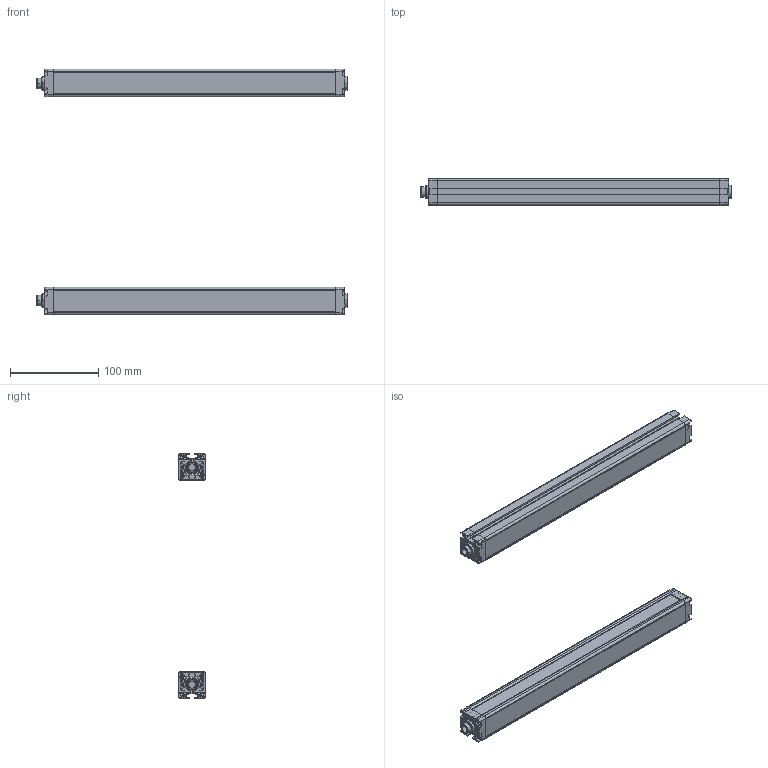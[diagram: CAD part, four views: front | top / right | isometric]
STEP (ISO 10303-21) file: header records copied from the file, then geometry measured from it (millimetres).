
FILE_DESCRIPTION((''),'2;1');
FILE_NAME('ASM0001_ASM','2019-02-27T',('Administrator'),(''),'PRO/ENGINEER BY PARAMETRIC TECHNOLOGY CORPORATION, 2002180','PRO/ENGINEER BY PARAMETRIC TECHNOLOGY CORPORATION, 2002180','');
FILE_SCHEMA(('CONFIG_CONTROL_DESIGN'));
Length unit declared in the file: millimetre
Products named in the file (10): 1; 2; 3; 4; 5; 7; 8; ASM0_ASM; 000000_ASM; ASM0001_ASM
Assembly tree (10 placements, depth 4):
  ASM0001_ASM
    000000_ASM  x2
      1
      2
      3
      4
      5
      ASM0_ASM
        7
        8
Bounding box: 352 x 30.3 x 278.6 mm (x, y, z)
Volume: 220161 mm3; surface area: 263263.3 mm2
Topology: 10 solids, 14 shells, 1704 faces, 4642 edges, 2986 vertices
Faces by surface type: plane 1364, cylinder 280, cone 60
Entity records: 27023 total; most frequent: CARTESIAN_POINT 5008, ORIENTED_EDGE 4638, DIRECTION 4345, EDGE_CURVE 2321, VECTOR 1973, LINE 1973, VERTEX_POINT 1493, AXIS2_PLACEMENT_3D 1186
